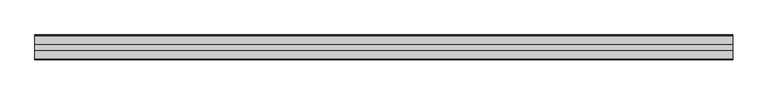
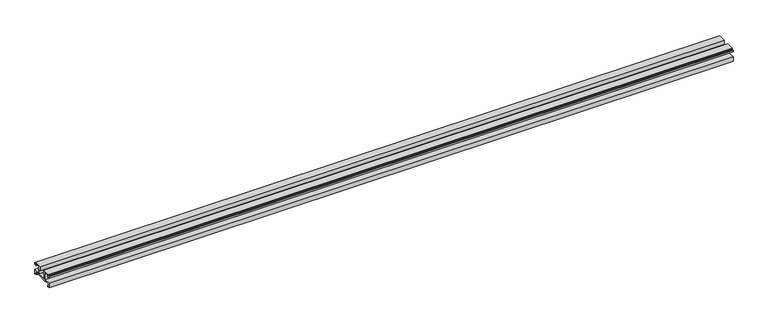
"""IFC4 building model written with IfcOpenShell, lengths in millimetres: proxy geometry, Weiku - Montante - Acoplamento vidro : Weiku - Montante - Acoplamento vidro."""

from ifc_helpers import new_model, si_unit, frame, origin, place, context, project, spatial, polyline, outline, extrude, source, transform, mapped, element, save


def generic_models_e35a680b(model_context):
    return source(origin(), model_context, "Body", "SweptSolid", [
        extrude(outline(polyline([(35.405, 5.1494), (12.495, 5.1494), (12.495, 6.8004), (2.159, 6.8004), (2.159, 2.6094), (4.0216, 2.6094), (4.0216, 0.0), (-0.0014508, 0.0), (-0.0014508, 8.79), (12.954, 8.79), (12.954, 23.3104), (4.3603, 23.3104), (4.3603, 19.204), (0.0, 19.204), (0.0, 22.8024), (0.9736, 22.8024), (0.9736, 20.3894), (3.175, 20.3894), (3.175, 23.9454), (2.3735496, 23.9454), (2.3735496, 25.3), (17.4836, 25.3), (17.4836, 16.283), (15.4516, 16.283), (15.4516, 8.8), (32.4484, 8.8), (32.4484, 16.283), (30.4164, 16.283), (30.4164, 25.3), (45.5264504, 25.3), (45.5264504, 23.9454), (44.725, 23.9454), (44.725, 20.3894), (46.9264, 20.3894), (46.9264, 22.8024), (47.9, 22.8024), (47.9, 19.204), (43.5397, 19.204), (43.5397, 23.3104), (34.946, 23.3104), (34.946, 8.79), (47.9014508, 8.79), (47.9014508, 0.0), (43.8784, 0.0), (43.8784, 2.6094), (45.741, 2.6094), (45.741, 6.8004), (35.405, 6.8004), (35.405, 5.1494)])), frame((-669.1833333, 0.0, 0.0), z_axis=(1.0, 0.0, 0.0), x_axis=(0.0, 1.0, 0.0)), (0.0, 0.0, 1.0), 1338.3666667),
    ])


if __name__ == "__main__":
    model = new_model("IFC4")
    model_context = context("Model", 3, world=origin())
    ifc_project = project(units=[si_unit("LENGTHUNIT", "METRE", prefix="MILLI")], contexts=[model_context])
    site = spatial("IfcSite", under=ifc_project)
    building = spatial("IfcBuilding", under=site)
    placement = place(None, origin())
    generic_models_shape = generic_models_e35a680b(model_context)
    element("IfcBuildingElementProxy", 1, Name="Weiku - Montante - Acoplamento vidro : Weiku - Montante - Acoplamento vidro", ObjectType="Weiku - Montante - Acoplamento vidro : Weiku - Montante - Acoplamento vidro", at=placement, inside=building, context=model_context, shape_type="MappedRepresentation", body=[
        mapped(generic_models_shape, transform((0.0, 0.0, 0.0), x_axis=(1.0, 0.0, 0.0), y_axis=(0.0, 1.0, 0.0), z_axis=(0.0, 0.0, 1.0))),
    ])
    save(model, "model.ifc")
